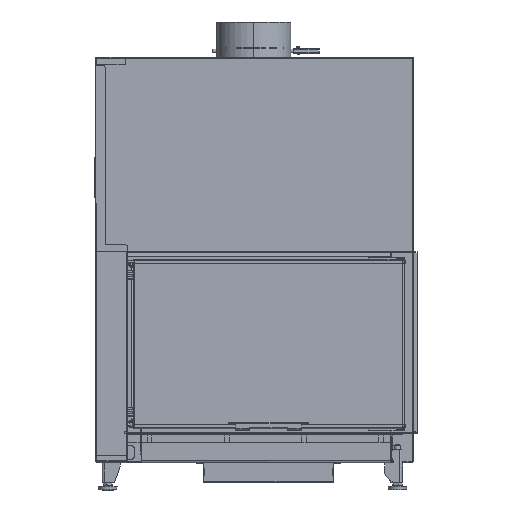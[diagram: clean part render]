
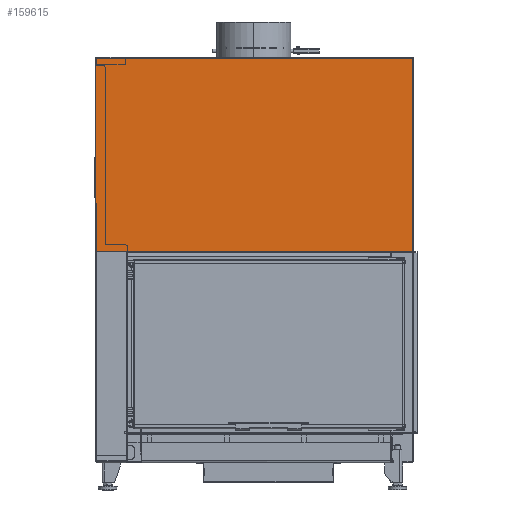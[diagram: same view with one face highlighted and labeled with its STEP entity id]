
A CAD part, front view. The second image highlights one B-rep face of the part: STEP entity #159615.
In plain terms, the highlighted planar face has unit normal (0, -1, 0).
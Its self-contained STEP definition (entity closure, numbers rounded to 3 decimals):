
#12793=FACE_OUTER_BOUND('',#21550,.T.);
#21550=EDGE_LOOP('',(#132000,#132001,#132002,#132003,#132004,#132005,#132006,
#132007,#132008,#132009,#132010));
#30789=LINE('',#250578,#45538);
#35483=LINE('',#268847,#50232);
#35484=LINE('',#268849,#50233);
#35485=LINE('',#268852,#50234);
#35486=LINE('',#268854,#50235);
#35487=LINE('',#268856,#50236);
#35488=LINE('',#268858,#50237);
#35489=LINE('',#268861,#50238);
#45538=VECTOR('',#198991,10.);
#50232=VECTOR('',#213287,10.);
#50233=VECTOR('',#213288,10.);
#50234=VECTOR('',#213291,10.);
#50235=VECTOR('',#213292,10.);
#50236=VECTOR('',#213293,10.);
#50237=VECTOR('',#213294,10.);
#50238=VECTOR('',#213297,10.);
#57176=CIRCLE('',#173592,3.);
#57177=CIRCLE('',#173593,0.1);
#57178=CIRCLE('',#173594,3.);
#65377=VERTEX_POINT('',#250575);
#65378=VERTEX_POINT('',#250577);
#69965=VERTEX_POINT('',#268843);
#69966=VERTEX_POINT('',#268844);
#69967=VERTEX_POINT('',#268846);
#69968=VERTEX_POINT('',#268848);
#69969=VERTEX_POINT('',#268851);
#69970=VERTEX_POINT('',#268853);
#69971=VERTEX_POINT('',#268855);
#69972=VERTEX_POINT('',#268857);
#69973=VERTEX_POINT('',#268859);
#83717=EDGE_CURVE('',#65378,#65377,#30789,.T.);
#91032=EDGE_CURVE('',#69965,#69966,#57176,.T.);
#91033=EDGE_CURVE('',#69965,#69967,#35483,.T.);
#91034=EDGE_CURVE('',#69967,#69968,#35484,.T.);
#91035=EDGE_CURVE('',#69968,#65378,#57177,.T.);
#91036=EDGE_CURVE('',#65377,#69969,#35485,.T.);
#91037=EDGE_CURVE('',#69969,#69970,#35486,.T.);
#91038=EDGE_CURVE('',#69970,#69971,#35487,.T.);
#91039=EDGE_CURVE('',#69971,#69972,#35488,.T.);
#91040=EDGE_CURVE('',#69973,#69972,#57178,.T.);
#91041=EDGE_CURVE('',#69973,#69966,#35489,.T.);
#132000=ORIENTED_EDGE('',*,*,#91032,.F.);
#132001=ORIENTED_EDGE('',*,*,#91033,.T.);
#132002=ORIENTED_EDGE('',*,*,#91034,.T.);
#132003=ORIENTED_EDGE('',*,*,#91035,.T.);
#132004=ORIENTED_EDGE('',*,*,#83717,.T.);
#132005=ORIENTED_EDGE('',*,*,#91036,.T.);
#132006=ORIENTED_EDGE('',*,*,#91037,.T.);
#132007=ORIENTED_EDGE('',*,*,#91038,.T.);
#132008=ORIENTED_EDGE('',*,*,#91039,.T.);
#132009=ORIENTED_EDGE('',*,*,#91040,.F.);
#132010=ORIENTED_EDGE('',*,*,#91041,.T.);
#143389=PLANE('',#173591);
#159615=ADVANCED_FACE('',(#12793),#143389,.T.);
#173591=AXIS2_PLACEMENT_3D('',#268842,#213283,#213284);
#173592=AXIS2_PLACEMENT_3D('',#268845,#213285,#213286);
#173593=AXIS2_PLACEMENT_3D('',#268850,#213289,#213290);
#173594=AXIS2_PLACEMENT_3D('',#268860,#213295,#213296);
#198991=DIRECTION('',(0.,0.,-1.));
#213283=DIRECTION('center_axis',(0.,-1.,
0.));
#213284=DIRECTION('ref_axis',(1.,0.,0.));
#213285=DIRECTION('center_axis',(0.,1.,
0.));
#213286=DIRECTION('ref_axis',(-0.707,0.,-0.707));
#213287=DIRECTION('',(1.,0.,0.));
#213288=DIRECTION('',(0.,0.,1.));
#213289=DIRECTION('center_axis',(0.,1.,
0.));
#213290=DIRECTION('ref_axis',(1.,0.,0.));
#213291=DIRECTION('',(1.,0.,0.));
#213292=DIRECTION('',(0.,0.,1.));
#213293=DIRECTION('',(-1.,0.,0.));
#213294=DIRECTION('',(-1.,0.,0.));
#213295=DIRECTION('center_axis',(0.,1.,
0.));
#213296=DIRECTION('ref_axis',(-0.707,0.,0.707));
#213297=DIRECTION('',(0.,0.,-1.));
#250575=CARTESIAN_POINT('',(87.4,-59.983,582.259));
#250577=CARTESIAN_POINT('',(87.4,-59.983,582.359));
#250578=CARTESIAN_POINT('',(87.4,-59.979,715.947));
#268842=CARTESIAN_POINT('Origin',(480.775,-59.975,849.634));
#268843=CARTESIAN_POINT('',(3.,-59.983,582.259));
#268844=CARTESIAN_POINT('',(0.,-59.983,585.259));
#268845=CARTESIAN_POINT('Origin',(3.,-59.983,585.259));
#268846=CARTESIAN_POINT('',(87.2,-59.983,582.259));
#268847=CARTESIAN_POINT('',(0.,-59.983,582.259));
#268848=CARTESIAN_POINT('',(87.2,-59.983,582.359));
#268849=CARTESIAN_POINT('',(87.2,-59.979,715.997));
#268850=CARTESIAN_POINT('Origin',(87.3,-59.983,582.359));
#268851=CARTESIAN_POINT('',(874.65,-59.983,582.259));
#268852=CARTESIAN_POINT('',(0.,-59.983,582.259));
#268853=CARTESIAN_POINT('',(874.65,-59.968,1114.259));
#268854=CARTESIAN_POINT('',(874.65,-59.979,715.947));
#268855=CARTESIAN_POINT('',(84.15,-59.968,1114.259));
#268856=CARTESIAN_POINT('',(679.088,-59.968,1114.259));
#268857=CARTESIAN_POINT('',(3.,-59.968,1114.259));
#268858=CARTESIAN_POINT('',(84.15,-59.968,1114.259));
#268859=CARTESIAN_POINT('',(0.,-59.968,1111.259));
#268860=CARTESIAN_POINT('Origin',(3.,-59.968,1111.259));
#268861=CARTESIAN_POINT('',(0.,-59.968,1114.259));
